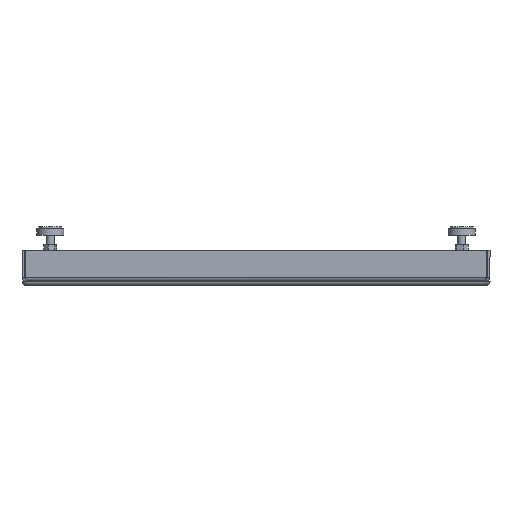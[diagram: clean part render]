
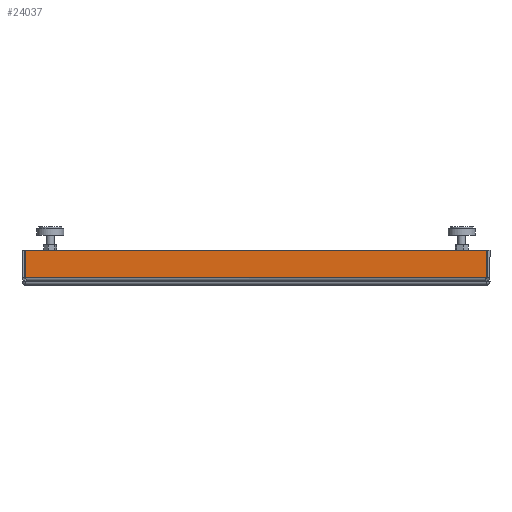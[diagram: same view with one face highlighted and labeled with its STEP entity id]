
A CAD part, left-side view. The second image highlights one B-rep face of the part: STEP entity #24037.
In plain terms, the highlighted planar face has unit normal (-1, 0, 0).
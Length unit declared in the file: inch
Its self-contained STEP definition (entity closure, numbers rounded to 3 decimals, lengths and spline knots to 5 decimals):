
#179 = VERTEX_POINT ( 'NONE', #7584 ) ;
#807 = VECTOR ( 'NONE', #20716, 39.37008 ) ;
#3567 = ORIENTED_EDGE ( 'NONE', *, *, #13985, .T. ) ;
#4021 = LINE ( 'NONE', #20858, #807 ) ;
#4278 = CARTESIAN_POINT ( 'NONE',  ( -15., 14.80493, 0. ) ) ;
#5094 = CARTESIAN_POINT ( 'NONE',  ( -15., 0., 0. ) ) ;
#5393 = DIRECTION ( 'NONE',  ( 0., 0., 1. ) ) ;
#7126 = PLANE ( 'NONE',  #17362 ) ;
#7584 = CARTESIAN_POINT ( 'NONE',  ( -15., 14.80493, 1.812 ) ) ;
#7769 = CARTESIAN_POINT ( 'NONE',  ( -15., -14.80493, 0.075 ) ) ;
#8434 = LINE ( 'NONE', #4278, #20234 ) ;
#9379 = ORIENTED_EDGE ( 'NONE', *, *, #17320, .T. ) ;
#11223 = LINE ( 'NONE', #13254, #12501 ) ;
#12501 = VECTOR ( 'NONE', #17852, 39.37008 ) ;
#13254 = CARTESIAN_POINT ( 'NONE',  ( -15., 0., 0.075 ) ) ;
#13416 = CARTESIAN_POINT ( 'NONE',  ( -15., 14.80493, 0.075 ) ) ;
#13985 = EDGE_CURVE ( 'NONE', #27443, #179, #4021, .T. ) ;
#14257 = VECTOR ( 'NONE', #16345, 39.37008 ) ;
#14414 = ORIENTED_EDGE ( 'NONE', *, *, #25735, .F. ) ;
#15640 = EDGE_LOOP ( 'NONE', ( #14414, #3567, #18278, #9379 ) ) ;
#16345 = DIRECTION ( 'NONE',  ( 0., 0., -1. ) ) ;
#17320 = EDGE_CURVE ( 'NONE', #22399, #19495, #11223, .T. ) ;
#17362 = AXIS2_PLACEMENT_3D ( 'NONE', #5094, #25038, #5393 ) ;
#17852 = DIRECTION ( 'NONE',  ( 0., -1., 0. ) ) ;
#18278 = ORIENTED_EDGE ( 'NONE', *, *, #26071, .T. ) ;
#18650 = CARTESIAN_POINT ( 'NONE',  ( -15., -14.80493, 0. ) ) ;
#19495 = VERTEX_POINT ( 'NONE', #7769 ) ;
#20234 = VECTOR ( 'NONE', #21339, 39.37008 ) ;
#20599 = FACE_OUTER_BOUND ( 'NONE', #15640, .T. ) ;
#20716 = DIRECTION ( 'NONE',  ( 0., 1., 0. ) ) ;
#20858 = CARTESIAN_POINT ( 'NONE',  ( -15., 0., 1.812 ) ) ;
#21339 = DIRECTION ( 'NONE',  ( 0., 0., -1. ) ) ;
#22399 = VERTEX_POINT ( 'NONE', #13416 ) ;
#24037 = ADVANCED_FACE ( 'NONE', ( #20599 ), #7126, .T. ) ;
#24936 = LINE ( 'NONE', #18650, #14257 ) ;
#25038 = DIRECTION ( 'NONE',  ( -1., 0., 0. ) ) ;
#25735 = EDGE_CURVE ( 'NONE', #27443, #19495, #24936, .T. ) ;
#25858 = CARTESIAN_POINT ( 'NONE',  ( -15., -14.80493, 1.812 ) ) ;
#26071 = EDGE_CURVE ( 'NONE', #179, #22399, #8434, .T. ) ;
#27443 = VERTEX_POINT ( 'NONE', #25858 ) ;
